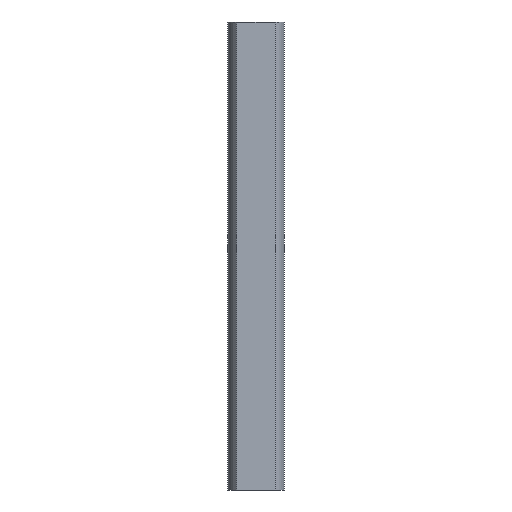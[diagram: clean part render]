
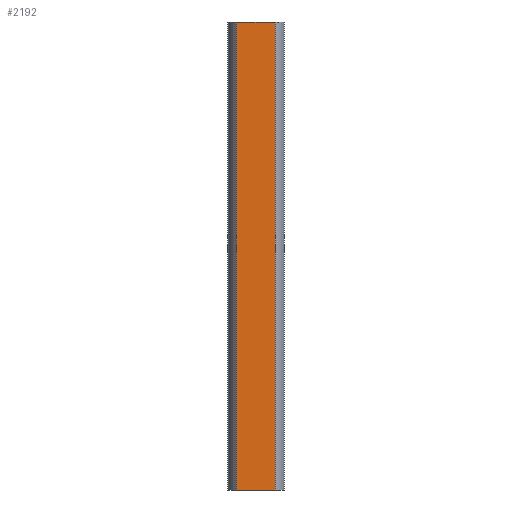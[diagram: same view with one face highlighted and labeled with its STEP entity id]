
A CAD part, left-side view. The second image highlights one B-rep face of the part: STEP entity #2192.
In plain terms, the highlighted planar face has unit normal (-1, 0, 0).
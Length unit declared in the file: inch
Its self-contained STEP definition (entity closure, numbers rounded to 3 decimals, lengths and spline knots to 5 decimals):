
#186=DIRECTION('',(0.,-1.,0.));
#187=VECTOR('',#186,2.40287);
#188=CARTESIAN_POINT('',(-1.27953,1.20143,0.));
#189=LINE('',#188,#187);
#549=DIRECTION('',(0.,-1.,0.));
#550=VECTOR('',#549,2.40287);
#551=CARTESIAN_POINT('',(-1.27953,1.20143,29.53));
#552=LINE('',#551,#550);
#894=DIRECTION('',(0.,0.,1.));
#895=VECTOR('',#894,29.53);
#896=CARTESIAN_POINT('',(-1.27953,-1.20143,0.));
#897=LINE('',#896,#895);
#898=DIRECTION('',(0.,0.,1.));
#899=VECTOR('',#898,29.53);
#900=CARTESIAN_POINT('',(-1.27953,1.20143,0.));
#901=LINE('',#900,#899);
#1158=CARTESIAN_POINT('',(-1.27953,-1.20143,0.));
#1160=VERTEX_POINT('',#1158);
#1172=CARTESIAN_POINT('',(-1.27953,1.20143,0.));
#1173=VERTEX_POINT('',#1172);
#1318=CARTESIAN_POINT('',(-1.27953,-1.20143,29.53));
#1320=VERTEX_POINT('',#1318);
#1332=CARTESIAN_POINT('',(-1.27953,1.20143,29.53));
#1333=VERTEX_POINT('',#1332);
#2180=CARTESIAN_POINT('',(-1.27953,1.20143,0.));
#2181=DIRECTION('',(-1.,0.,0.));
#2182=DIRECTION('',(0.,-1.,0.));
#2183=AXIS2_PLACEMENT_3D('',#2180,#2181,#2182);
#2184=PLANE('',#2183);
#2185=ORIENTED_EDGE('',*,*,#1441,.F.);
#2187=ORIENTED_EDGE('',*,*,#2186,.T.);
#2188=ORIENTED_EDGE('',*,*,#1647,.T.);
#2189=ORIENTED_EDGE('',*,*,#2172,.F.);
#2190=EDGE_LOOP('',(#2185,#2187,#2188,#2189));
#2191=FACE_OUTER_BOUND('',#2190,.F.);
#1441=EDGE_CURVE('',#1173,#1160,#189,.T.);
#1647=EDGE_CURVE('',#1333,#1320,#552,.T.);
#2172=EDGE_CURVE('',#1160,#1320,#897,.T.);
#2186=EDGE_CURVE('',#1173,#1333,#901,.T.);
#2192=ADVANCED_FACE('',(#2191),#2184,.T.);
